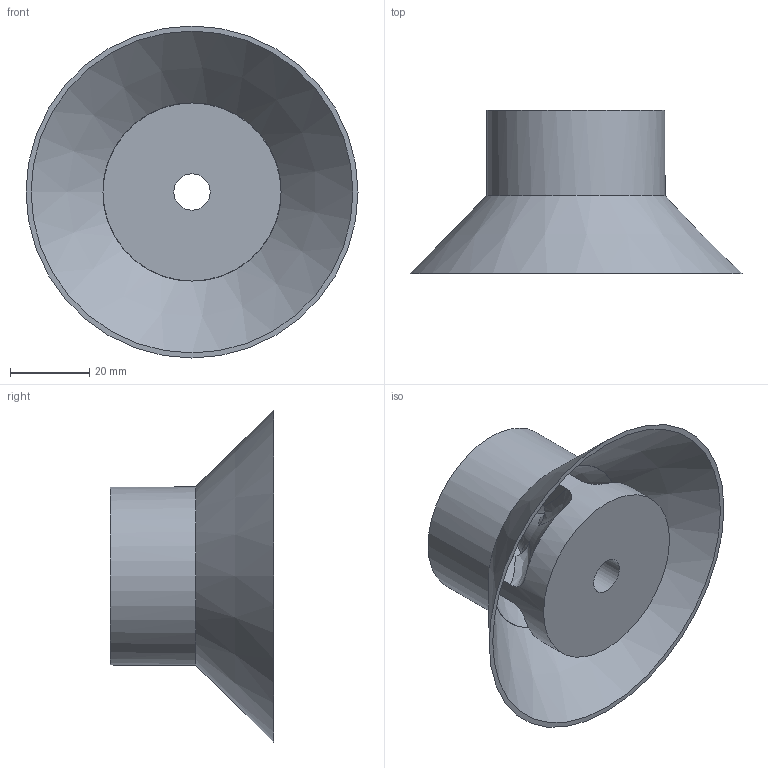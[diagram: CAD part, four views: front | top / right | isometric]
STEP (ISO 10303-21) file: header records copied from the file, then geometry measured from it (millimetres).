
FILE_DESCRIPTION(/* description */ (''),/* implementation_level */ '2;1');
FILE_NAME(/* name */ 'C:/Users/Owner/Desktop/KCAD 3Dp Fuel Filter Baffles Gen1/STEP Versions/1.77DIAx1.624 High Baffles STEP/1.77 Dia 36 CAL Baffle STEP.step',/* time_stamp */ '2019-05-22T19:26:06-04:00',/* author */ (''),/* organization */ (''),/* preprocessor_version */ 'ST-DEVELOPER v18',/* originating_system */ 'Autodesk Translation Framework v8.2.0.1029',/* authorisation */ '');
FILE_SCHEMA (('AUTOMOTIVE_DESIGN { 1 0 10303 214 3 1 1 }'));
Length unit declared in the file: inch
Products named in the file (1): 1.77 dia 1.624 high 36 cal
Bounding box: 83.82 x 41.25 x 83.82 mm (x, y, z)
Volume: 51537.8 mm3; surface area: 24146.9 mm2
Topology: 1 solids, 1 shells, 36 faces, 123 edges, 86 vertices
Faces by surface type: plane 15, bspline 13, cylinder 4, cone 2, torus 2
Full cylindrical faces by diameter (mm): 9.144 x2, 44.958 x2
Entity records: 2193 total; most frequent: CARTESIAN_POINT 1214, ORIENTED_EDGE 246, DIRECTION 130, EDGE_CURVE 123, VERTEX_POINT 86, B_SPLINE_CURVE_WITH_KNOTS 70, AXIS2_PLACEMENT_3D 54, EDGE_LOOP 43
